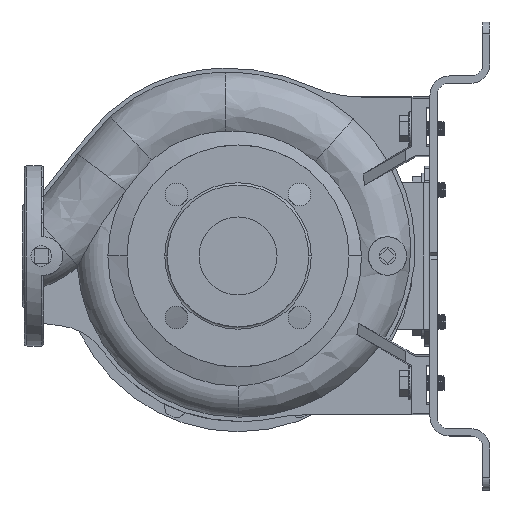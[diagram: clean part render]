
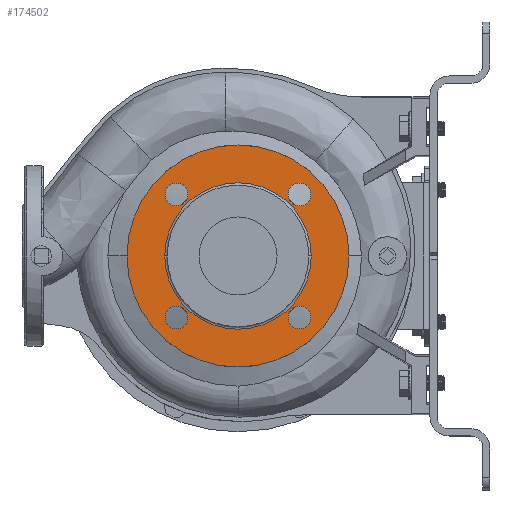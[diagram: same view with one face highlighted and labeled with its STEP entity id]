
A CAD part, left-side view. The second image highlights one B-rep face of the part: STEP entity #174502.
In plain terms, the highlighted planar face has unit normal (-1, 0, 0).
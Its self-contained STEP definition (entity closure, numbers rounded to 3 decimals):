
#261 = EDGE_CURVE ( 'NONE', #170858, #134963, #49202, .T. ) ;
#4301 = AXIS2_PLACEMENT_3D ( 'NONE', #154924, #140779, #11625 ) ;
#6341 = CARTESIAN_POINT ( 'NONE',  ( -98., -92.5, 0. ) ) ;
#7961 = EDGE_LOOP ( 'NONE', ( #140590, #111934 ) ) ;
#10048 = FACE_BOUND ( 'NONE', #158185, .T. ) ;
#11269 = CARTESIAN_POINT ( 'NONE',  ( -98., 51.265, 51.265 ) ) ;
#11625 = DIRECTION ( 'NONE',  ( 0., -1., 0. ) ) ;
#12444 = ORIENTED_EDGE ( 'NONE', *, *, #122173, .F. ) ;
#12521 = DIRECTION ( 'NONE',  ( -1., 0., 0. ) ) ;
#16097 = AXIS2_PLACEMENT_3D ( 'NONE', #67092, #155701, #53879 ) ;
#16579 = ORIENTED_EDGE ( 'NONE', *, *, #88759, .F. ) ;
#17512 = DIRECTION ( 'NONE',  ( -1., 0., 0. ) ) ;
#20383 = CARTESIAN_POINT ( 'NONE',  ( -98., -51.265, -51.265 ) ) ;
#20678 = CARTESIAN_POINT ( 'NONE',  ( -98., -61., 0. ) ) ;
#21683 = EDGE_CURVE ( 'NONE', #136332, #172870, #23681, .T. ) ;
#23681 = CIRCLE ( 'NONE', #168287, 9.5 ) ;
#27179 = CARTESIAN_POINT ( 'NONE',  ( -98., 61., 0. ) ) ;
#29059 = VERTEX_POINT ( 'NONE', #99727 ) ;
#29849 = CIRCLE ( 'NONE', #183445, 92.5 ) ;
#31545 = EDGE_LOOP ( 'NONE', ( #85709, #181259 ) ) ;
#32520 = AXIS2_PLACEMENT_3D ( 'NONE', #63809, #94923, #93062 ) ;
#33277 = DIRECTION ( 'NONE',  ( 0., 0., 1. ) ) ;
#35924 = AXIS2_PLACEMENT_3D ( 'NONE', #143232, #154585, #68746 ) ;
#39257 = FACE_BOUND ( 'NONE', #49977, .T. ) ;
#44722 = CIRCLE ( 'NONE', #68772, 9.5 ) ;
#45581 = EDGE_CURVE ( 'NONE', #134963, #170858, #166896, .T. ) ;
#46728 = DIRECTION ( 'NONE',  ( 0., -1., 0. ) ) ;
#49202 = CIRCLE ( 'NONE', #16097, 61. ) ;
#49977 = EDGE_LOOP ( 'NONE', ( #88691, #112873 ) ) ;
#50372 = CIRCLE ( 'NONE', #158873, 9.5 ) ;
#51540 = FACE_BOUND ( 'NONE', #167040, .T. ) ;
#53879 = DIRECTION ( 'NONE',  ( 0., -1., 0. ) ) ;
#55546 = DIRECTION ( 'NONE',  ( 0., -1., 0. ) ) ;
#56228 = ORIENTED_EDGE ( 'NONE', *, *, #261, .F. ) ;
#56947 = DIRECTION ( 'NONE',  ( -1., 0., 0. ) ) ;
#57055 = CIRCLE ( 'NONE', #35924, 9.5 ) ;
#59394 = EDGE_CURVE ( 'NONE', #145609, #173395, #107447, .T. ) ;
#59940 = CARTESIAN_POINT ( 'NONE',  ( -98., 0., 0. ) ) ;
#62280 = ORIENTED_EDGE ( 'NONE', *, *, #59394, .F. ) ;
#62488 = DIRECTION ( 'NONE',  ( -1., 0., 0. ) ) ;
#62815 = DIRECTION ( 'NONE',  ( -1., 0., 0. ) ) ;
#63655 = DIRECTION ( 'NONE',  ( -1., 0., 0. ) ) ;
#63796 = ORIENTED_EDGE ( 'NONE', *, *, #122192, .F. ) ;
#63809 = CARTESIAN_POINT ( 'NONE',  ( -98., 61., 0. ) ) ;
#64609 = VERTEX_POINT ( 'NONE', #164476 ) ;
#64964 = EDGE_CURVE ( 'NONE', #172870, #136332, #44722, .T. ) ;
#67092 = CARTESIAN_POINT ( 'NONE',  ( -98., 0., 0. ) ) ;
#68746 = DIRECTION ( 'NONE',  ( 0., 0., -1. ) ) ;
#68772 = AXIS2_PLACEMENT_3D ( 'NONE', #74759, #62488, #33277 ) ;
#71152 = DIRECTION ( 'NONE',  ( 0., -1., 0. ) ) ;
#74759 = CARTESIAN_POINT ( 'NONE',  ( -98., 51.265, -51.265 ) ) ;
#77029 = CARTESIAN_POINT ( 'NONE',  ( -98., -41.765, -51.265 ) ) ;
#81274 = CIRCLE ( 'NONE', #99331, 92.5 ) ;
#81654 = CARTESIAN_POINT ( 'NONE',  ( -98., -60.765, -51.265 ) ) ;
#85709 = ORIENTED_EDGE ( 'NONE', *, *, #172092, .F. ) ;
#86354 = VERTEX_POINT ( 'NONE', #111452 ) ;
#88691 = ORIENTED_EDGE ( 'NONE', *, *, #21683, .F. ) ;
#88759 = EDGE_CURVE ( 'NONE', #29059, #64609, #50372, .T. ) ;
#92986 = DIRECTION ( 'NONE',  ( 0., 1., 0. ) ) ;
#93062 = DIRECTION ( 'NONE',  ( 0., 1., 0. ) ) ;
#94697 = CARTESIAN_POINT ( 'NONE',  ( -98., 60.765, -51.265 ) ) ;
#94923 = DIRECTION ( 'NONE',  ( 1., 0., 0. ) ) ;
#96757 = FACE_BOUND ( 'NONE', #169750, .T. ) ;
#99331 = AXIS2_PLACEMENT_3D ( 'NONE', #140761, #12521, #122930 ) ;
#99727 = CARTESIAN_POINT ( 'NONE',  ( -98., 41.765, 51.265 ) ) ;
#103209 = VERTEX_POINT ( 'NONE', #77029 ) ;
#104926 = AXIS2_PLACEMENT_3D ( 'NONE', #124878, #56947, #170140 ) ;
#107023 = DIRECTION ( 'NONE',  ( 0., 0., -1. ) ) ;
#107188 = PLANE ( 'NONE',  #32520 ) ;
#107447 = CIRCLE ( 'NONE', #182715, 9.5 ) ;
#108130 = FACE_BOUND ( 'NONE', #31545, .T. ) ;
#109055 = FACE_OUTER_BOUND ( 'NONE', #7961, .T. ) ;
#111452 = CARTESIAN_POINT ( 'NONE',  ( -98., 92.5, 0. ) ) ;
#111934 = ORIENTED_EDGE ( 'NONE', *, *, #179337, .T. ) ;
#112873 = ORIENTED_EDGE ( 'NONE', *, *, #64964, .F. ) ;
#114540 = DIRECTION ( 'NONE',  ( -1., 0., 0. ) ) ;
#117201 = CARTESIAN_POINT ( 'NONE',  ( -98., -60.765, 51.265 ) ) ;
#117886 = EDGE_CURVE ( 'NONE', #103209, #174434, #168146, .T. ) ;
#119905 = CARTESIAN_POINT ( 'NONE',  ( -98., 51.265, -51.265 ) ) ;
#121192 = EDGE_CURVE ( 'NONE', #135343, #86354, #29849, .T. ) ;
#122074 = ORIENTED_EDGE ( 'NONE', *, *, #45581, .F. ) ;
#122173 = EDGE_CURVE ( 'NONE', #64609, #29059, #126343, .T. ) ;
#122192 = EDGE_CURVE ( 'NONE', #173395, #145609, #57055, .T. ) ;
#122930 = DIRECTION ( 'NONE',  ( 0., -1., 0. ) ) ;
#123276 = AXIS2_PLACEMENT_3D ( 'NONE', #11269, #182889, #55546 ) ;
#124878 = CARTESIAN_POINT ( 'NONE',  ( -98., -51.265, -51.265 ) ) ;
#126343 = CIRCLE ( 'NONE', #123276, 9.5 ) ;
#132008 = CIRCLE ( 'NONE', #104926, 9.5 ) ;
#134963 = VERTEX_POINT ( 'NONE', #20678 ) ;
#135343 = VERTEX_POINT ( 'NONE', #6341 ) ;
#136332 = VERTEX_POINT ( 'NONE', #167751 ) ;
#140590 = ORIENTED_EDGE ( 'NONE', *, *, #121192, .T. ) ;
#140761 = CARTESIAN_POINT ( 'NONE',  ( -98., 0., 0. ) ) ;
#140779 = DIRECTION ( 'NONE',  ( -1., 0., 0. ) ) ;
#141439 = CARTESIAN_POINT ( 'NONE',  ( -98., -41.765, 51.265 ) ) ;
#143232 = CARTESIAN_POINT ( 'NONE',  ( -98., -51.265, 51.265 ) ) ;
#145609 = VERTEX_POINT ( 'NONE', #141439 ) ;
#151018 = DIRECTION ( 'NONE',  ( 0., 0., 1. ) ) ;
#154585 = DIRECTION ( 'NONE',  ( -1., 0., 0. ) ) ;
#154924 = CARTESIAN_POINT ( 'NONE',  ( -98., 0., 0. ) ) ;
#155701 = DIRECTION ( 'NONE',  ( -1., 0., 0. ) ) ;
#158185 = EDGE_LOOP ( 'NONE', ( #16579, #12444 ) ) ;
#158873 = AXIS2_PLACEMENT_3D ( 'NONE', #170227, #114540, #71152 ) ;
#158881 = DIRECTION ( 'NONE',  ( -1., 0., 0. ) ) ;
#164476 = CARTESIAN_POINT ( 'NONE',  ( -98., 60.765, 51.265 ) ) ;
#166896 = CIRCLE ( 'NONE', #4301, 61. ) ;
#167040 = EDGE_LOOP ( 'NONE', ( #122074, #56228 ) ) ;
#167751 = CARTESIAN_POINT ( 'NONE',  ( -98., 41.765, -51.265 ) ) ;
#168146 = CIRCLE ( 'NONE', #177261, 9.5 ) ;
#168287 = AXIS2_PLACEMENT_3D ( 'NONE', #119905, #158881, #151018 ) ;
#169750 = EDGE_LOOP ( 'NONE', ( #63796, #62280 ) ) ;
#170140 = DIRECTION ( 'NONE',  ( 0., 1., 0. ) ) ;
#170227 = CARTESIAN_POINT ( 'NONE',  ( -98., 51.265, 51.265 ) ) ;
#170858 = VERTEX_POINT ( 'NONE', #27179 ) ;
#172092 = EDGE_CURVE ( 'NONE', #174434, #103209, #132008, .T. ) ;
#172870 = VERTEX_POINT ( 'NONE', #94697 ) ;
#173395 = VERTEX_POINT ( 'NONE', #117201 ) ;
#174434 = VERTEX_POINT ( 'NONE', #81654 ) ;
#174502 = ADVANCED_FACE ( 'NONE', ( #96757, #108130, #39257, #10048, #51540, #109055 ), #107188, .F. ) ;
#176848 = CARTESIAN_POINT ( 'NONE',  ( -98., -51.265, 51.265 ) ) ;
#177261 = AXIS2_PLACEMENT_3D ( 'NONE', #20383, #62815, #92986 ) ;
#179337 = EDGE_CURVE ( 'NONE', #86354, #135343, #81274, .T. ) ;
#181259 = ORIENTED_EDGE ( 'NONE', *, *, #117886, .F. ) ;
#182715 = AXIS2_PLACEMENT_3D ( 'NONE', #176848, #63655, #107023 ) ;
#182889 = DIRECTION ( 'NONE',  ( -1., 0., 0. ) ) ;
#183445 = AXIS2_PLACEMENT_3D ( 'NONE', #59940, #17512, #46728 ) ;
